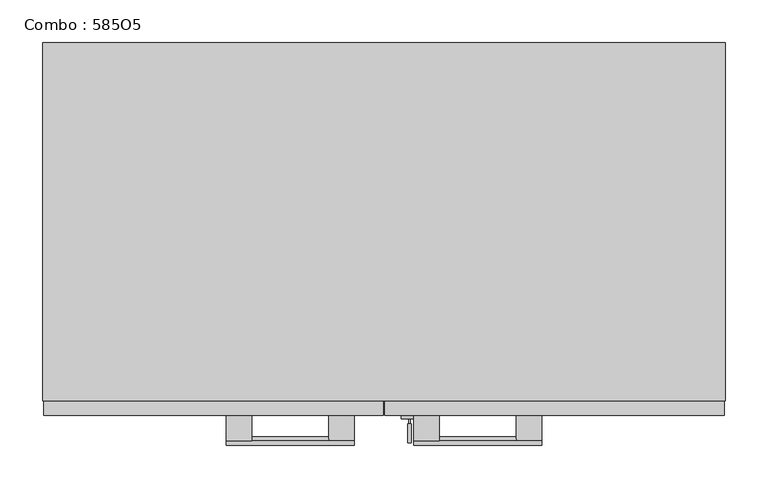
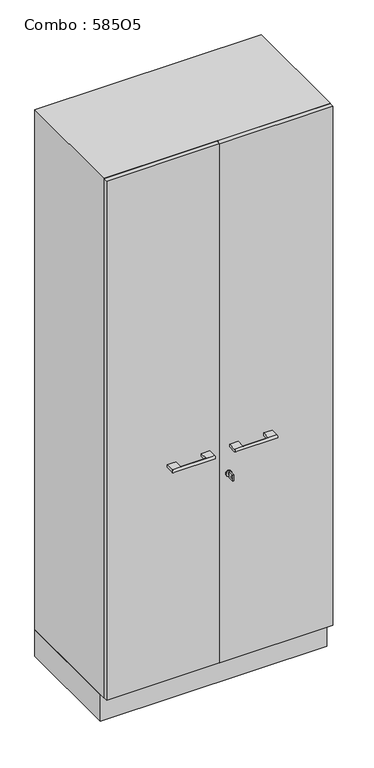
"""IFC4 building model written with IfcOpenShell, lengths in millimetres: furniture geometry, Combo : 585O5."""

import ifcopenshell
import ifcopenshell.guid

model = None  # the IFC model being written
_history = None  # IfcOwnerHistory: only IFC2X3 demands one
_inside = {}  # id of a spatial element -> (the spatial element, [elements in it])
_under = {}  # id of a project, library or spatial element -> (it, [spatial elements below it])
_declared = {}  # id of a project -> (the project, [libraries it declares])
_typed = {}  # id of a type object -> (the type object, [elements of that type])
_made_of = {}  # id of a material, layer set ... -> (it, [elements and type objects made of it])


def new_model(schema):
    """Start an empty IFC model of exactly this schema.

    Asked for "IFC4X3", IfcOpenShell would pick the latest addendum, in which some entities
    have other attributes; the version numbers below select the first issue.
    IFC2X3 requires an IfcOwnerHistory on every rooted entity: one is made here for all.
    """
    global model, _history
    if schema == "IFC4X3":
        model = ifcopenshell.file(schema_version=(4, 3, 0, 0))
    else:
        model = ifcopenshell.file(schema=schema)
    _inside.clear()
    _under.clear()
    _declared.clear()
    _typed.clear()
    _made_of.clear()
    _history = None
    if model.schema == "IFC2X3":
        org = make("IfcOrganization", Name="unknown")
        user = make(
            "IfcPersonAndOrganization",
            ThePerson=make("IfcPerson", FamilyName="unknown"),
            TheOrganization=org,
        )
        app = make(
            "IfcApplication",
            ApplicationDeveloper=org,
            Version="unknown",
            ApplicationFullName="unknown",
            ApplicationIdentifier="unknown",
        )
        _history = make(
            "IfcOwnerHistory",
            OwningUser=user,
            OwningApplication=app,
            ChangeAction="ADDED",
            CreationDate=0,
        )
    return model


def make(cls, **values):
    """One entity of the class cls with the attributes given. An attribute that is None is left unset."""
    return model.create_entity(
        cls, **{name: value for name, value in values.items() if value is not None}
    )


def rooted(cls, **values):
    """An entity with a GlobalId (a new one), such as an element, a storey or a relation."""
    return make(cls, GlobalId=ifcopenshell.guid.new(), OwnerHistory=_history, **values)


def si_unit(unit_type, name, prefix=None):
    """IfcSIUnit, for example si_unit("LENGTHUNIT", "METRE", prefix="MILLI")."""
    return make("IfcSIUnit", UnitType=unit_type, Prefix=prefix, Name=name)


def assignment(units):
    """IfcUnitAssignment: the units of a project."""
    return None if units is None else make("IfcUnitAssignment", Units=units)


def point(xyz):
    """IfcCartesianPoint."""
    return None if xyz is None else make("IfcCartesianPoint", Coordinates=xyz)


def direction(xyz):
    """IfcDirection."""
    return None if xyz is None else make("IfcDirection", DirectionRatios=xyz)


def frame(location, z_axis=None, x_axis=None):
    """IfcAxis2Placement3D, a coordinate frame: its origin and axes. An axis left out is left unset."""
    return make(
        "IfcAxis2Placement3D",
        Location=point(location),
        Axis=direction(z_axis),
        RefDirection=direction(x_axis),
    )


def frame_2d(location, x_axis=None):
    """IfcAxis2Placement2D, a coordinate frame in the plane: its origin and x axis."""
    return make(
        "IfcAxis2Placement2D", Location=point(location), RefDirection=direction(x_axis)
    )


def origin():
    """The frame at (0, 0, 0) with its axes left unset."""
    return frame((0.0, 0.0, 0.0))


def origin_with_axes():
    """The frame at (0, 0, 0) with the z axis (0, 0, 1) and the x axis (1, 0, 0) written out."""
    return frame((0.0, 0.0, 0.0), z_axis=(0.0, 0.0, 1.0), x_axis=(1.0, 0.0, 0.0))


def place(relative_to, where):
    """IfcLocalPlacement: puts the frame where relative to a parent placement (None: the world)."""
    return make(
        "IfcLocalPlacement", PlacementRelTo=relative_to, RelativePlacement=where
    )


def context(
    kind, dimensions, precision=None, world=None, true_north=None, identifier=None
):
    """IfcGeometricRepresentationContext, for example the 3D "Model" context."""
    return make(
        "IfcGeometricRepresentationContext",
        ContextIdentifier=identifier,
        ContextType=kind,
        CoordinateSpaceDimension=dimensions,
        Precision=precision,
        WorldCoordinateSystem=world,
        TrueNorth=true_north,
    )


def project(units=None, contexts=None):
    """IfcProject with its units and contexts."""
    return rooted(
        "IfcProject",
        Name="project",
        RepresentationContexts=contexts,
        UnitsInContext=assignment(units),
    )


def spatial(cls, under=None, at=None, **own):
    """A site, building, storey or space (cls), placed at a placement, below another one or the project."""
    s = rooted(cls, ObjectPlacement=at, **own)
    if under is not None:
        _under.setdefault(under.id(), (under, []))[1].append(s)
    return s


def polyline(points):
    """IfcPolyline through the points."""
    return make("IfcPolyline", Points=[point(p) for p in points])


def circle_curve(where, radius):
    """IfcCircle in the frame where."""
    return make("IfcCircle", Position=where, Radius=radius)


def trimmed(basis, trim1, trim2, sense, master):
    """IfcTrimmedCurve: the piece of a basis curve between two trims."""
    return make(
        "IfcTrimmedCurve",
        BasisCurve=basis,
        Trim1=trim1,
        Trim2=trim2,
        SenseAgreement=sense,
        MasterRepresentation=master,
    )


def segment(curve, same_sense, transition):
    """IfcCompositeCurveSegment."""
    return make(
        "IfcCompositeCurveSegment",
        Transition=transition,
        SameSense=same_sense,
        ParentCurve=curve,
    )


def composite_curve(segments, self_intersect=None):
    """IfcCompositeCurve: segments joined end to end."""
    return make("IfcCompositeCurve", Segments=segments, SelfIntersect=self_intersect)


def outline(outer, holes=None, kind="AREA"):
    """IfcArbitraryClosedProfileDef: a profile drawn as a closed curve; with holes, ...WithVoids."""
    if holes is None:
        return make("IfcArbitraryClosedProfileDef", ProfileType=kind, OuterCurve=outer)
    return make(
        "IfcArbitraryProfileDefWithVoids",
        ProfileType=kind,
        OuterCurve=outer,
        InnerCurves=holes,
    )


def extrude(swept, where, along, depth):
    """IfcExtrudedAreaSolid: the profile swept, set in the frame where, extruded along a direction by depth."""
    return make(
        "IfcExtrudedAreaSolid",
        SweptArea=swept,
        Position=where,
        ExtrudedDirection=direction(along),
        Depth=depth,
    )


def shape(context_of_items, identifier, shape_type, items):
    """IfcShapeRepresentation: the items that make up one representation, for example the "Body"."""
    return make(
        "IfcShapeRepresentation",
        ContextOfItems=context_of_items,
        RepresentationIdentifier=identifier,
        RepresentationType=shape_type,
        Items=items,
    )


def source(mapping_origin, context_of_items, identifier, shape_type, items):
    """IfcRepresentationMap: a shape defined once, which mapped items show again and again."""
    return make(
        "IfcRepresentationMap",
        MappingOrigin=mapping_origin,
        MappedRepresentation=shape(context_of_items, identifier, shape_type, items),
    )


def transform(
    local_origin,
    x_axis=None,
    y_axis=None,
    z_axis=None,
    scale=None,
    scale2=None,
    scale3=None,
    uniform=True,
):
    """IfcCartesianTransformationOperator3D, or its non-uniform kind. x_axis, y_axis, z_axis: its Axis1, 2, 3."""
    if uniform:
        return make(
            "IfcCartesianTransformationOperator3D",
            Axis1=direction(x_axis),
            Axis2=direction(y_axis),
            LocalOrigin=point(local_origin),
            Scale=scale,
            Axis3=direction(z_axis),
        )
    return make(
        "IfcCartesianTransformationOperator3DnonUniform",
        Axis1=direction(x_axis),
        Axis2=direction(y_axis),
        LocalOrigin=point(local_origin),
        Scale=scale,
        Axis3=direction(z_axis),
        Scale2=scale2,
        Scale3=scale3,
    )


def mapped(mapping_source, mapping_target):
    """IfcMappedItem: shows the shape of a source again, moved by a transform."""
    return make(
        "IfcMappedItem", MappingSource=mapping_source, MappingTarget=mapping_target
    )


def made_of(thing, what):
    """Note that an element or type object is made of a material, layer set ...; save() writes the relation."""
    if what is not None:
        _made_of.setdefault(what.id(), (what, []))[1].append(thing)
    return thing


def element(
    cls,
    number,
    at=None,
    inside=None,
    cuts=None,
    type_object=None,
    material=None,
    context=None,
    identifier="Body",
    shape_type=None,
    held_by="IfcProductDefinitionShape",
    body=None,
    shapes=None,
    **own,
):
    """One element of the class cls, such as IfcWall. Its Tag is "e" and its number.

    at: its placement. inside: the storey or other place that contains it. cuts: it is an
    opening in that element (IfcRelVoidsElement). A single representation is given by context,
    identifier, shape_type and body (its items); several are given by shapes. held_by: the class
    of the entity that holds the representations. save() writes the other relations.
    """
    e = rooted(cls, Tag="e%d" % number, ObjectPlacement=at, **own)
    if body is not None:
        shapes = [shape(context, identifier, shape_type, body)]
    if shapes is not None:
        e.Representation = make(held_by, Representations=shapes)
    if inside is not None:
        _inside.setdefault(inside.id(), (inside, []))[1].append(e)
    if cuts is not None:
        rooted(
            "IfcRelVoidsElement", RelatingBuildingElement=cuts, RelatedOpeningElement=e
        )
    if type_object is not None:
        _typed.setdefault(type_object.id(), (type_object, []))[1].append(e)
    return made_of(e, material)


def aggregate(whole, parts):
    """IfcRelAggregates: a whole, such as a stair, and the parts it consists of."""
    return rooted("IfcRelAggregates", RelatingObject=whole, RelatedObjects=parts)


def save(model, path):
    """Write the relations noted so far, then the file.

    IfcRelAggregates (storeys below a building ...), IfcRelContainedInSpatialStructure (elements
    in a storey), IfcRelDefinesByType, IfcRelAssociatesMaterial and IfcRelDeclares: one each for
    every whole, place, type object, material and project.
    """
    for whole, parts in _under.values():
        aggregate(whole, parts)
    for where, things in _inside.values():
        rooted(
            "IfcRelContainedInSpatialStructure",
            RelatedElements=things,
            RelatingStructure=where,
        )
    for kind, things in _typed.values():
        rooted("IfcRelDefinesByType", RelatedObjects=things, RelatingType=kind)
    for what, things in _made_of.values():
        rooted("IfcRelAssociatesMaterial", RelatedObjects=things, RelatingMaterial=what)
    for by, libraries in _declared.values():
        rooted("IfcRelDeclares", RelatingContext=by, RelatedDefinitions=libraries)
    model.write(path)


def plane_surface(at):
    """IfcPlane: the flat surface through the origin of the frame at, square to its z axis."""
    return make("IfcPlane", Position=at)


def cylinder_surface(at, radius):
    """IfcCylindricalSurface: all points at the distance radius from the z axis of the frame at."""
    return make("IfcCylindricalSurface", Position=at, Radius=radius)


def advanced_brep(points, edges, surfaces, faces):
    """IfcAdvancedBrep: a solid bounded by faces that lie on surfaces and meet in shared edges.

    An edge is (start, end): straight between two places in points (the first is 0);
    or (start, end, curve); or (start, end, curve, False) where it runs against its curve.
    A face is (place in surfaces, loops), or (place, loops, False) where it looks against
    its surface's normal. A loop lists edges by number (the first is 1), with a minus sign
    where the edge is run from its end to its start. The first loop is the outer one.
    """
    corners = [point(p) for p in points]
    vertices = [make("IfcVertexPoint", VertexGeometry=c) for c in corners]
    made = []
    for start, end, *more in edges:
        made.append(
            make(
                "IfcEdgeCurve",
                EdgeStart=vertices[start],
                EdgeEnd=vertices[end],
                EdgeGeometry=more[0] if more else make("IfcPolyline", Points=[corners[start], corners[end]]),
                SameSense=more[1] if len(more) > 1 else True,
            )
        )
    hull = []
    for where, loops, *sense in faces:
        bounds = []
        for j, loop in enumerate(loops):
            ring = [make("IfcOrientedEdge", EdgeElement=made[abs(k) - 1], Orientation=k > 0) for k in loop]
            bounds.append(
                make(
                    "IfcFaceOuterBound" if j == 0 else "IfcFaceBound",
                    Bound=make("IfcEdgeLoop", EdgeList=ring),
                    Orientation=True,
                )
            )
        hull.append(make("IfcAdvancedFace", Bounds=bounds, FaceSurface=surfaces[where], SameSense=sense[0] if sense else True))
    return make("IfcAdvancedBrep", Outer=make("IfcClosedShell", CfsFaces=hull))


def combo_585o5_5a32f465(model_context):
    return source(origin(), model_context, "Body", "SolidModel", [
        extrude(outline(polyline([(-400.0, -400.0), (-400.0, 0.0), (400.0, 0.0), (400.0, -400.0), (-400.0, -400.0)])), origin_with_axes(), (0.0, 0.0, 1.0), 100.0),
        extrude(outline(composite_curve([segment(trimmed(circle_curve(frame_2d((800.0, 30.0)), 10.0), [point((800.0, 20.0))], [point((800.0, 40.0))], False, "CARTESIAN"), True, "CONTINUOUS"), segment(trimmed(circle_curve(frame_2d((800.0, 30.0)), 10.0), [point((800.0, 40.0))], [point((800.0, 20.0))], False, "CARTESIAN"), True, "CONTINUOUS")], self_intersect=False)), frame((0.0, -441.0, 0.0), z_axis=(0.0, 1.0, 0.0), x_axis=(0.0, 0.0, 1.0)), (0.0, 0.0, 1.0), 4.0),
        extrude(outline(polyline([(-469.0, 789.014113), (-469.0, 811.0), (-447.0, 811.0), (-447.0, 789.014113), (-469.0, 789.014113)]), holes=[composite_curve([segment(trimmed(circle_curve(frame_2d((-462.75, 800.0070565)), 3.2230706), [point((-462.75, 803.2301271))], [point((-462.75, 796.7839859))], True, "CARTESIAN"), True, "CONTINUOUS"), segment(trimmed(circle_curve(frame_2d((-462.75, 800.0070565)), 3.2230706), [point((-462.75, 796.7839859))], [point((-462.75, 803.2301271))], True, "CARTESIAN"), True, "CONTINUOUS")], self_intersect=False)]), frame((28.0, 0.0, 0.0), z_axis=(1.0, 0.0, 0.0), x_axis=(0.0, 1.0, 0.0)), (0.0, 0.0, 1.0), 4.0416064),
        extrude(outline(polyline([(31.0416064, -447.0), (29.0, -447.0), (29.0, -441.0), (31.0416064, -441.0), (31.0416064, -447.0)])), frame((0.0, 0.0, 796.014113), z_axis=(0.0, 0.0, 1.0), x_axis=(1.0, 0.0, 0.0)), (0.0, 0.0, 1.0), 7.985887),
        advanced_brep(
        [(-185.0, -467.0, 905.0), (-185.0, -437.0, 905.0), (-185.0, -437.0, 895.0), (-185.0, -467.0, 895.0), (-155.0, -467.0, 895.0), (-155.0, -437.0, 895.0), (-155.0, -437.0, 905.0), (-155.0, -467.0, 905.0), (-35.0, -467.0, 905.0), (-35.0, -467.0, 895.0), (-35.0, -437.0, 895.0), (-35.0, -437.0, 905.0), (-65.0, -467.0, 905.0), (-65.0, -467.0, 895.0), (-65.0, -437.0, 905.0), (-65.0, -437.0, 895.0)],
        [
            (0, 1),
            (1, 2),
            (2, 3),
            (3, 0, circle_curve(frame((-185.0, -467.0, 900.0), z_axis=(-1.0, 0.0, 0.0), x_axis=(0.0, 0.0, -1.0)), 5.0)),
            (4, 5),
            (5, 6),
            (6, 7),
            (7, 4, circle_curve(frame((-155.0, -467.0, 900.0), z_axis=(-1.0, 0.0, 0.0), x_axis=(0.0, 0.0, -1.0)), 5.0)),
            (2, 5),
            (4, 3),
            (1, 6),
            (0, 7),
            (8, 9, circle_curve(frame((-35.0, -467.0, 900.0), z_axis=(1.0, 0.0, 0.0), x_axis=(0.0, 0.0, -1.0)), 5.0)),
            (9, 10),
            (10, 11),
            (11, 8),
            (8, 12),
            (12, 7),
            (4, 13),
            (13, 9),
            (12, 13, circle_curve(frame((-65.0, -467.0, 900.0), z_axis=(-1.0, 0.0, 0.0), x_axis=(0.0, 0.0, -1.0)), 5.0)),
            (12, 14),
            (14, 15),
            (15, 13),
            (15, 10),
            (14, 11),
        ],
        [
            plane_surface(frame((-185.0, -467.0, 906.0), z_axis=(-1.0, 0.0, 0.0), x_axis=(0.0, 0.0, 1.0))),
            plane_surface(frame((-155.0, -467.0, 906.0), z_axis=(1.0, 0.0, 0.0), x_axis=(0.0, 0.0, -1.0))),
            plane_surface(frame((-185.0, -437.0, 895.0), z_axis=(0.0, 0.0, -1.0), x_axis=(1.0, 0.0, 0.0))),
            plane_surface(frame((-185.0, -437.0, 905.0), z_axis=(0.0, 1.0, 0.0), x_axis=(1.0, 0.0, 0.0))),
            plane_surface(frame((-185.0, -467.0, 905.0), z_axis=(0.0, 0.0, 1.0), x_axis=(1.0, 0.0, 0.0))),
            plane_surface(frame((-35.0, -467.0, 895.0), z_axis=(1.0, 0.0, 0.0), x_axis=(0.0, 1.0, 0.0))),
            cylinder_surface(frame((-185.0, -467.0, 900.0), z_axis=(1.0, 0.0, 0.0), x_axis=(0.0, 0.0, -1.0)), 5.0),
            plane_surface(frame((-65.0, -555.7415577, 895.0), z_axis=(-1.0, 0.0, 0.0), x_axis=(0.0, -1.0, 0.0))),
            plane_surface(frame((-35.0, -467.0, 895.0), z_axis=(0.0, 0.0, -1.0), x_axis=(-1.0, 0.0, 0.0))),
            plane_surface(frame((-35.0, -437.0, 895.0), z_axis=(0.0, 1.0, 0.0), x_axis=(-1.0, 0.0, 0.0))),
            plane_surface(frame((-35.0, -437.0, 905.0), z_axis=(0.0, 0.0, 1.0), x_axis=(-1.0, 0.0, 0.0))),
        ],
        [
            (0, [[1, 2, 3, 4]]),
            (1, [[5, 6, 7, 8]]),
            (2, [[-3, 9, -5, 10]]),
            (3, [[-2, 11, -6, -9]]),
            (4, [[-1, 12, -7, -11]]),
            (5, [[13, 14, 15, 16]]),
            (6, [[-13, 17, 18, -12, -4, -10, 19, 20]]),
            (6, [[-8, -18, 21, -19]]),
            (7, [[22, 23, 24, -21]]),
            (8, [[-14, -20, -24, 25]]),
            (9, [[-15, -25, -23, 26]]),
            (10, [[-16, -26, -22, -17]]),
        ],
    ),
        advanced_brep(
        [(35.0, -467.0, 905.0), (35.0, -437.0, 905.0), (35.0, -437.0, 895.0), (35.0, -467.0, 895.0), (65.0, -467.0, 895.0), (65.0, -437.0, 895.0), (65.0, -437.0, 905.0), (65.0, -467.0, 905.0), (185.0, -467.0, 905.0), (185.0, -467.0, 895.0), (185.0, -437.0, 895.0), (185.0, -437.0, 905.0), (155.0, -467.0, 905.0), (155.0, -467.0, 895.0), (155.0, -437.0, 905.0), (155.0, -437.0, 895.0)],
        [
            (0, 1),
            (1, 2),
            (2, 3),
            (3, 0, circle_curve(frame((35.0, -467.0, 900.0), z_axis=(-1.0, 0.0, 0.0), x_axis=(0.0, 0.0, -1.0)), 5.0)),
            (4, 5),
            (5, 6),
            (6, 7),
            (7, 4, circle_curve(frame((65.0, -467.0, 900.0), z_axis=(-1.0, 0.0, 0.0), x_axis=(0.0, 0.0, -1.0)), 5.0)),
            (2, 5),
            (4, 3),
            (1, 6),
            (0, 7),
            (8, 9, circle_curve(frame((185.0, -467.0, 900.0), z_axis=(1.0, 0.0, 0.0), x_axis=(0.0, 0.0, -1.0)), 5.0)),
            (9, 10),
            (10, 11),
            (11, 8),
            (8, 12),
            (12, 7),
            (4, 13),
            (13, 9),
            (12, 13, circle_curve(frame((155.0, -467.0, 900.0), z_axis=(-1.0, 0.0, 0.0), x_axis=(0.0, 0.0, -1.0)), 5.0)),
            (12, 14),
            (14, 15),
            (15, 13),
            (15, 10),
            (14, 11),
        ],
        [
            plane_surface(frame((35.0, -467.0, 906.0), z_axis=(-1.0, 0.0, 0.0), x_axis=(0.0, 0.0, 1.0))),
            plane_surface(frame((65.0, -467.0, 906.0), z_axis=(1.0, 0.0, 0.0), x_axis=(0.0, 0.0, -1.0))),
            plane_surface(frame((35.0, -437.0, 895.0), z_axis=(0.0, 0.0, -1.0), x_axis=(1.0, 0.0, 0.0))),
            plane_surface(frame((35.0, -437.0, 905.0), z_axis=(0.0, 1.0, 0.0), x_axis=(1.0, 0.0, 0.0))),
            plane_surface(frame((35.0, -467.0, 905.0), z_axis=(0.0, 0.0, 1.0), x_axis=(1.0, 0.0, 0.0))),
            plane_surface(frame((185.0, -467.0, 895.0), z_axis=(1.0, 0.0, 0.0), x_axis=(0.0, 1.0, 0.0))),
            cylinder_surface(frame((35.0, -467.0, 900.0), z_axis=(1.0, 0.0, 0.0), x_axis=(0.0, 0.0, -1.0)), 5.0),
            plane_surface(frame((155.0, -555.7415577, 895.0), z_axis=(-1.0, 0.0, 0.0), x_axis=(0.0, -1.0, 0.0))),
            plane_surface(frame((185.0, -467.0, 895.0), z_axis=(0.0, 0.0, -1.0), x_axis=(-1.0, 0.0, 0.0))),
            plane_surface(frame((185.0, -437.0, 895.0), z_axis=(0.0, 1.0, 0.0), x_axis=(-1.0, 0.0, 0.0))),
            plane_surface(frame((185.0, -437.0, 905.0), z_axis=(0.0, 0.0, 1.0), x_axis=(-1.0, 0.0, 0.0))),
        ],
        [
            (0, [[1, 2, 3, 4]]),
            (1, [[5, 6, 7, 8]]),
            (2, [[-3, 9, -5, 10]]),
            (3, [[-2, 11, -6, -9]]),
            (4, [[-1, 12, -7, -11]]),
            (5, [[13, 14, 15, 16]]),
            (6, [[-13, 17, 18, -12, -4, -10, 19, 20]]),
            (6, [[-8, -18, 21, -19]]),
            (7, [[22, 23, 24, -21]]),
            (8, [[-14, -20, -24, 25]]),
            (9, [[-15, -25, -23, 26]]),
            (10, [[-16, -26, -22, -17]]),
        ],
    ),
        extrude(outline(polyline([(-1.0, -437.0), (-399.0, -437.0), (-399.0, -421.0), (-1.0, -421.0), (-1.0, -437.0)])), frame((0.0, 0.0, 101.0), z_axis=(0.0, 0.0, 1.0), x_axis=(1.0, 0.0, 0.0)), (0.0, 0.0, 1.0), 1938.0),
        extrude(outline(polyline([(399.0, -437.0), (1.0, -437.0), (1.0, -421.0), (399.0, -421.0), (399.0, -437.0)])), frame((0.0, 0.0, 101.0), z_axis=(0.0, 0.0, 1.0), x_axis=(1.0, 0.0, 0.0)), (0.0, 0.0, 1.0), 1938.0),
        extrude(outline(polyline([(400.0, 0.0), (400.0, -420.0), (-400.0, -420.0), (-400.0, 0.0), (400.0, 0.0)])), frame((0.0, 0.0, 100.0), z_axis=(0.0, 0.0, 1.0), x_axis=(1.0, 0.0, 0.0)), (0.0, 0.0, 1.0), 1940.0),
    ])


if __name__ == "__main__":
    model = new_model("IFC4")
    model_context = context("Model", 3, world=origin())
    ifc_project = project(units=[si_unit("LENGTHUNIT", "METRE", prefix="MILLI")], contexts=[model_context])
    site = spatial("IfcSite", under=ifc_project)
    building = spatial("IfcBuilding", under=site)
    placement = place(None, origin())
    combo_585o5_shape = combo_585o5_5a32f465(model_context)
    element("IfcFurniture", 1, ObjectType="Combo : 585O5", at=placement, inside=building, context=model_context, shape_type="MappedRepresentation", body=[
        mapped(combo_585o5_shape, transform((0.0, 0.0, 0.0), x_axis=(1.0, 0.0, 0.0), y_axis=(0.0, 1.0, 0.0), z_axis=(0.0, 0.0, 1.0))),
    ])
    save(model, "model.ifc")
